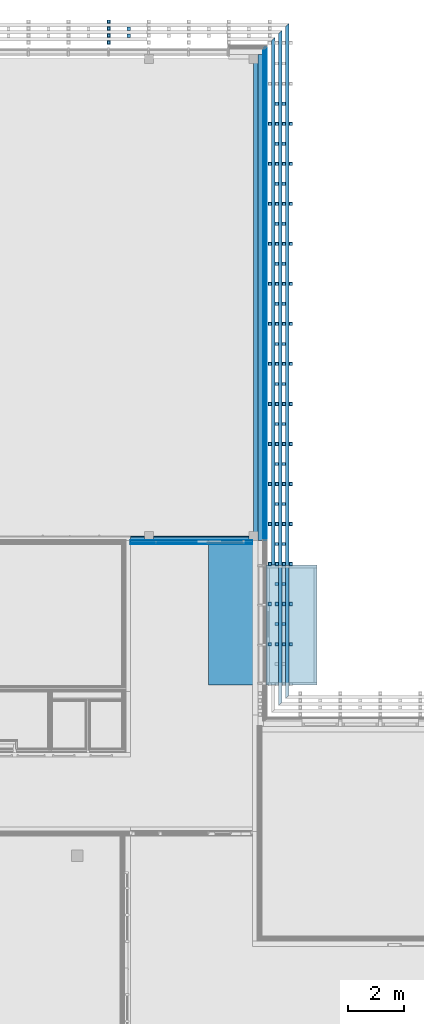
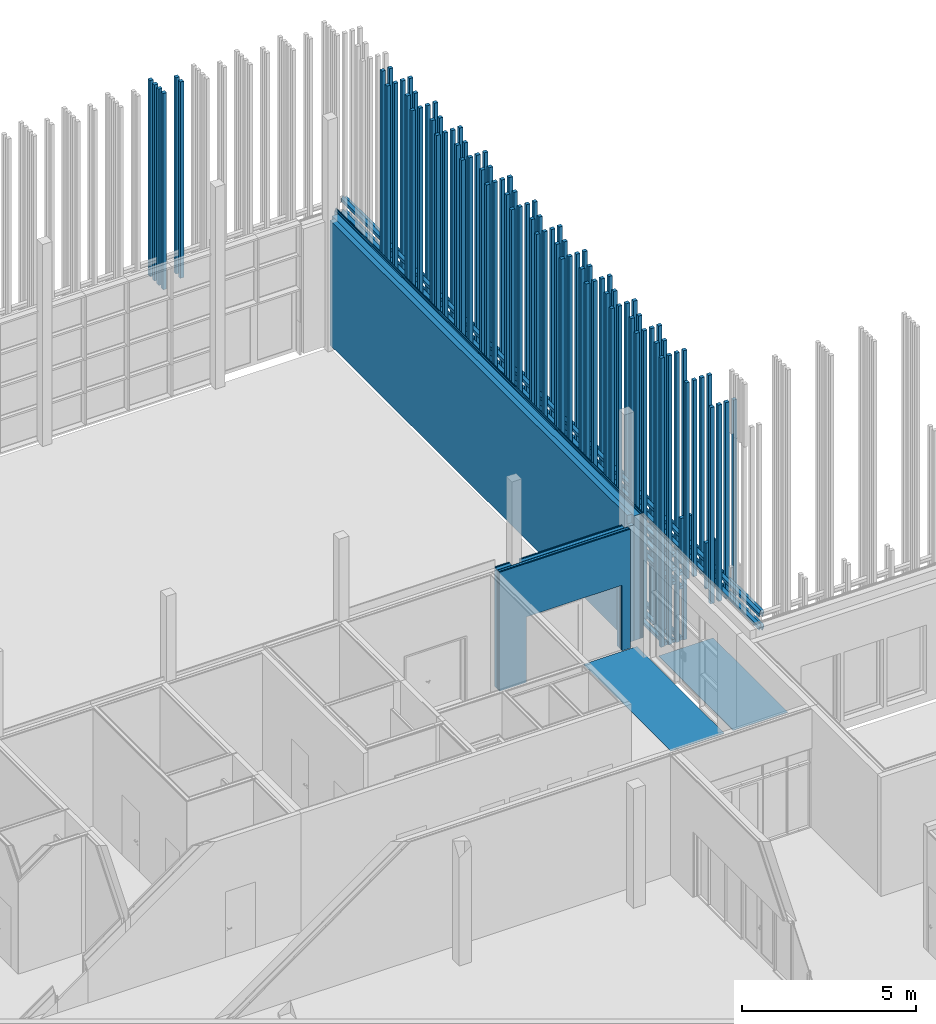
# One storey, part 233 of 260: 38 discrete accessories, 13 building element parts, 1 opening, 2 elements without a shape of their own.
"""IFC2X3 building model written with IfcOpenShell, lengths in millimetres."""

from ifc_helpers import new_model, entity, si_unit, converted_unit, derived_unit, money_unit, direction, frame, origin_with_axes, place, context, subcontext, project, spatial, faceted_brep, material, material_list, type_object, element, aggregate, save


model = new_model("IFC2X3")

# Units and contexts
model_context = context("Model", 3, precision=0.01, world=origin_with_axes(), true_north=direction((0.0, 1.0)))
body_context = subcontext(model_context, "Body", "Model", "MODEL_VIEW")
ifc_project = project(units=[si_unit("LENGTHUNIT", "METRE", prefix="MILLI"), si_unit("AREAUNIT", "SQUARE_METRE"), si_unit("VOLUMEUNIT", "CUBIC_METRE"), converted_unit("PLANEANGLEUNIT", "DEGREE", entity("IfcPlaneAngleMeasure", 0.0174532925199), si_unit("PLANEANGLEUNIT", "RADIAN"), dimensions=[0, 0, 0, 0, 0, 0, 0]), money_unit("EUR"), converted_unit("TIMEUNIT", "Year", entity("IfcTimeMeasure", 31556926.0), si_unit("TIMEUNIT", "SECOND"), dimensions=[0, 0, 1, 0, 0, 0, 0]), si_unit("MASSUNIT", "GRAM", prefix="KILO"), si_unit("THERMODYNAMICTEMPERATUREUNIT", "DEGREE_CELSIUS"), si_unit("LUMINOUSINTENSITYUNIT", "LUMEN"), si_unit("ENERGYUNIT", "JOULE", prefix="MEGA"), derived_unit("THERMALCONDUCTANCEUNIT", [(si_unit("POWERUNIT", "WATT"), 1), (si_unit("LENGTHUNIT", "METRE"), -1), (si_unit("THERMODYNAMICTEMPERATUREUNIT", "KELVIN"), -1)]), derived_unit("SPECIFICHEATCAPACITYUNIT", [(si_unit("ENERGYUNIT", "JOULE"), 1), (si_unit("MASSUNIT", "GRAM", prefix="KILO"), -1), (si_unit("THERMODYNAMICTEMPERATUREUNIT", "KELVIN"), -1)]), derived_unit("MASSDENSITYUNIT", [(si_unit("MASSUNIT", "GRAM", prefix="KILO"), 1), (si_unit("VOLUMEUNIT", "CUBIC_METRE"), -1)])], contexts=[model_context])

# Site, building, storey
site_placement = place(None, origin_with_axes())
site = spatial("IfcSite", under=ifc_project, at=site_placement, Name="Kolde pst 67a", CompositionType="ELEMENT")
building_placement = place(site_placement, origin_with_axes())
building = spatial("IfcBuilding", under=site, at=building_placement, Name="Riigigümnaasium", CompositionType="ELEMENT")
storey_placement = place(building_placement, origin_with_axes())
storey = spatial("IfcBuildingStorey", under=building, at=storey_placement, Name="1. korrus", CompositionType="ELEMENT", Elevation=0.0)

# Discrete accessories
ifc_material_1 = material(Name="_VÄLISVIIMISTLUS - sõrmjätkatud puitprussid 120x115mm, liitekohad vähemärgatavad, Platowood sõrmjätkatud kuusk või samaväärne; eeltöödeldud tuletõkkevõõbaga, tuletundlikkus B-s1, d0, Woodsafe Exterior WFX™ või samaväärne; kinnitused vastavalt EK osale")
ifc_material_list_1 = material_list([ifc_material_1, ifc_material_1, ifc_material_1, ifc_material_1])
discrete_accessory_type_1 = type_object("IfcDiscreteAccessoryType", Name="120 4-ne vertikaalne 870 x 115")
for number, where, z_axis, x_axis in (
    (1, (36790.0025447, 81957.5215754, 280.0), (0.0, 0.0, 1.0), (-0.999999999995, -3.13999128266e-06, 0.0)),
    (2, (36790.0023276, 80527.5215766, 280.0), (0.0, 0.0, 1.0), (-0.999999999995, -3.13999128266e-06, 0.0)),
    (3, (36790.0021106, 79097.5215769, 280.0), (0.0, 0.0, 1.0), (-0.999999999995, -3.13999128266e-06, 0.0)),
    (4, (36790.0018935, 77667.521578, 280.0), (0.0, 0.0, 1.0), (-0.999999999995, -3.13999128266e-06, 0.0)),
    (5, (36790.0016765, 76237.5215784, 280.0), (0.0, 0.0, 1.0), (-0.999999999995, -3.13999128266e-06, 0.0)),
    (6, (36790.0010644, 74807.5215795, 280.0), (0.0, 0.0, 1.0), (-0.999999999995, -3.13999128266e-06, 0.0)),
    (7, (36790.0012424, 73377.5215799, 280.0), (0.0, 0.0, 1.0), (-0.999999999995, -3.13999128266e-06, 0.0)),
    (8, (36790.0010253, 71947.521581, 280.0), (0.0, 0.0, 1.0), (-0.999999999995, -3.13999128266e-06, 0.0)),
    (9, (36790.0008083, 70517.5215814, 280.0), (0.0, 0.0, 1.0), (-0.999999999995, -3.13999128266e-06, 0.0)),
    (10, (36790.0005912, 69087.5215825, 280.0), (0.0, 0.0, 1.0), (-0.999999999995, -3.13999128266e-06, 0.0)),
    (11, (36790.0003742, 67657.5215829, 280.0), (0.0, 0.0, 1.0), (-0.999999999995, -3.13999128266e-06, 0.0)),
    (12, (36790.0001571, 66227.521584, 280.0), (0.0, 0.0, 1.0), (-0.999999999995, -3.13999128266e-06, 0.0)),
):
    element("IfcDiscreteAccessory", number, at=place(storey_placement, frame(where, z_axis=z_axis, x_axis=x_axis)), inside=storey, type_object=discrete_accessory_type_1, material=ifc_material_list_1, Name="Päikesevarjestus", context=body_context, shape_type="Brep", body=[
        faceted_brep([(-133.0, -70.0, 0.0), (-13.0, -70.0, 0.0), (-13.0, -70.0, 10140.0), (-133.0, -70.0, 10140.0), (-133.0, 45.0, 0.0), (-13.0, 45.0, 0.0), (-13.0, 45.0, 10140.0), (-133.0, 45.0, 10140.0)], [[[0, 1, 2, 3]], [[0, 4, 5, 1]], [[1, 5, 6, 2]], [[3, 2, 6, 7]], [[4, 0, 3, 7]], [[5, 4, 7, 6]]]),
        faceted_brep([(-383.0, -70.0, 0.0), (-263.0, -70.0, 0.0), (-263.0, -70.0, 10140.0), (-383.0, -70.0, 10140.0), (-383.0, 45.0, 0.0), (-263.0, 45.0, 0.0), (-263.0, 45.0, 10140.0), (-383.0, 45.0, 10140.0)], [[[0, 1, 2, 3]], [[0, 4, 5, 1]], [[1, 5, 6, 2]], [[3, 2, 6, 7]], [[4, 0, 3, 7]], [[5, 4, 7, 6]]]),
        faceted_brep([(-633.0, -70.0, 0.0), (-513.0, -70.0, 0.0), (-513.0, -70.0, 10140.0), (-633.0, -70.0, 10140.0), (-633.0, 45.0, 0.0), (-513.0, 45.0, 0.0), (-513.0, 45.0, 10140.0), (-633.0, 45.0, 10140.0)], [[[0, 1, 2, 3]], [[0, 4, 5, 1]], [[1, 5, 6, 2]], [[3, 2, 6, 7]], [[4, 0, 3, 7]], [[5, 4, 7, 6]]]),
        faceted_brep([(-883.0, -70.0, 0.0), (-763.0, -70.0, 0.0), (-763.0, -70.0, 10140.0), (-883.0, -70.0, 10140.0), (-883.0, 45.0, 0.0), (-763.0, 45.0, 0.0), (-763.0, 45.0, 10140.0), (-883.0, 45.0, 10140.0)], [[[0, 1, 2, 3]], [[0, 4, 5, 1]], [[1, 5, 6, 2]], [[3, 2, 6, 7]], [[4, 0, 3, 7]], [[5, 4, 7, 6]]]),
    ])
for number, where, z_axis, x_axis in (
    (13, (36789.9994576, 64797.5215883, 3540.00014213), (0.0, 0.0, 1.0), (-0.999999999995, -3.13999128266e-06, 0.0)),
    (14, (36789.999328, 63367.5215851, 3540.00014213), (0.0, 0.0, 1.0), (-0.999999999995, -3.13999128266e-06, 0.0)),
    (15, (31122.4999347, 84790.0013546, 3540.00014213), (0.0, 0.0, 1.0), (-2.93429595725e-05, -0.999999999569, 0.0)),
):
    element("IfcDiscreteAccessory", number, at=place(storey_placement, frame(where, z_axis=z_axis, x_axis=x_axis)), inside=storey, type_object=discrete_accessory_type_1, material=ifc_material_list_1, Name="Päikesevarjestus", context=body_context, shape_type="Brep", body=[
        faceted_brep([(-133.0, -70.0, 0.0), (-13.0, -70.0, 0.0), (-13.0, -70.0, 6879.99985787), (-133.0, -70.0, 6879.99985787), (-133.0, 45.0, 0.0), (-13.0, 45.0, 0.0), (-13.0, 45.0, 6879.99985787), (-133.0, 45.0, 6879.99985787)], [[[0, 1, 2, 3]], [[0, 4, 5, 1]], [[1, 5, 6, 2]], [[3, 2, 6, 7]], [[4, 0, 3, 7]], [[5, 4, 7, 6]]]),
        faceted_brep([(-383.0, -70.0, 0.0), (-263.0, -70.0, 0.0), (-263.0, -70.0, 6879.99985787), (-383.0, -70.0, 6879.99985787), (-383.0, 45.0, 0.0), (-263.0, 45.0, 0.0), (-263.0, 45.0, 6879.99985787), (-383.0, 45.0, 6879.99985787)], [[[0, 1, 2, 3]], [[0, 4, 5, 1]], [[1, 5, 6, 2]], [[3, 2, 6, 7]], [[4, 0, 3, 7]], [[5, 4, 7, 6]]]),
        faceted_brep([(-633.0, -70.0, 0.0), (-513.0, -70.0, 0.0), (-513.0, -70.0, 6879.99985787), (-633.0, -70.0, 6879.99985787), (-633.0, 45.0, 0.0), (-513.0, 45.0, 0.0), (-513.0, 45.0, 6879.99985787), (-633.0, 45.0, 6879.99985787)], [[[0, 1, 2, 3]], [[0, 4, 5, 1]], [[1, 5, 6, 2]], [[3, 2, 6, 7]], [[4, 0, 3, 7]], [[5, 4, 7, 6]]]),
        faceted_brep([(-883.0, -70.0, 0.0), (-763.0, -70.0, 0.0), (-763.0, -70.0, 6879.99985787), (-883.0, -70.0, 6879.99985787), (-883.0, 45.0, 0.0), (-763.0, 45.0, 0.0), (-763.0, 45.0, 6879.99985787), (-883.0, 45.0, 6879.99985787)], [[[0, 1, 2, 3]], [[0, 4, 5, 1]], [[1, 5, 6, 2]], [[3, 2, 6, 7]], [[4, 0, 3, 7]], [[5, 4, 7, 6]]]),
    ])
ifc_material_list_2 = material_list([ifc_material_1, ifc_material_1, ifc_material_1])
discrete_accessory_type_2 = type_object("IfcDiscreteAccessoryType", Name="120 1+paiksekaitse 3 tk  620 x 115")
discrete_accessory_1_placement = place(storey_placement, frame((36803.0003063, 66213.0216248, 352.5), z_axis=(0.0, 0.0, 1.0), x_axis=(0.999999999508, 3.1362198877e-05, 0.0)))
element("IfcDiscreteAccessory", 16, at=discrete_accessory_1_placement, inside=storey, type_object=discrete_accessory_type_2, material=ifc_material_list_2, Name="Päikesevarjestus", context=body_context, shape_type="Brep", body=[
    faceted_brep([(625.0, 19214.9587452, 45.0), (625.0, 0.0, 45.0), (745.0, 0.0, 45.0), (745.0, 19334.9549818, 45.0), (625.0, 19214.9587452, -70.0), (625.0, 0.0, -70.0), (745.0, 0.0, -70.0), (745.0, 19334.9549818, -70.0)], [[[0, 1, 2, 3]], [[4, 5, 1, 0]], [[5, 6, 2, 1]], [[3, 2, 6, 7]], [[4, 0, 3, 7]], [[7, 6, 5, 4]]]),
    faceted_brep([(375.0, 18964.9665857, 45.0), (375.0, 0.0, 45.0), (495.0, 0.0, 45.0), (495.0, 19084.9628222, 45.0), (375.0, 18964.9665857, -70.0), (375.0, 0.0, -70.0), (495.0, 0.0, -70.0), (495.0, 19084.9628222, -70.0)], [[[0, 1, 2, 3]], [[4, 5, 1, 0]], [[5, 6, 2, 1]], [[3, 2, 6, 7]], [[4, 0, 3, 7]], [[7, 6, 5, 4]]]),
    faceted_brep([(125.0, 18714.9744261, 45.0), (125.0, 0.0, 45.0), (245.0, 0.0, 45.0), (245.0, 18834.9706627, 45.0), (125.0, 18714.9744261, -70.0), (125.0, 0.0, -70.0), (245.0, 0.0, -70.0), (245.0, 18834.9706627, -70.0)], [[[0, 1, 2, 3]], [[4, 5, 1, 0]], [[5, 6, 2, 1]], [[3, 2, 6, 7]], [[4, 0, 3, 7]], [[7, 6, 5, 4]]]),
])
ifc_material_list_3 = material_list([ifc_material_1, ifc_material_1])
discrete_accessory_type_3 = type_object("IfcDiscreteAccessoryType", Name="1+paiksekaitse 4 tk nihkes 2 370 x 355")
for number, where, z_axis, x_axis in (
    (17, (36802.8900107, 66180.0021982, 2580.00014213), (0.0, 0.0, 1.0), (0.999999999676, 2.54661924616e-05, 0.0)),
    (18, (36802.8900107, 66180.0021982, 3060.00014213), (0.0, 0.0, 1.0), (0.999999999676, 2.54661924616e-05, 0.0)),
):
    element("IfcDiscreteAccessory", number, at=place(storey_placement, frame(where, z_axis=z_axis, x_axis=x_axis)), inside=storey, type_object=discrete_accessory_type_3, material=ifc_material_list_3, Name="Päikesevarjestus", context=body_context, shape_type="Brep", body=[
        faceted_brep([(375.0, 18997.9881429, 347.001360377), (375.0, 0.0, 347.001360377), (495.0, 0.0, 357.5), (495.0, 19117.9850642, 357.5), (375.0, 18997.9881429, 242.5), (375.0, 0.0, 242.5), (495.0, 0.0, 242.5), (495.0, 19117.9850642, 242.5)], [[[0, 1, 2, 3]], [[4, 5, 1, 0]], [[5, 6, 2, 1]], [[3, 2, 6, 7]], [[4, 0, 3, 7]], [[7, 6, 5, 4]]]),
        faceted_brep([(625.0, 19247.9817291, 107.001360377), (625.0, 0.0, 107.001360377), (745.0, 0.0, 117.5), (745.0, 19367.9786505, 117.5), (625.0, 19247.9817291, 2.5), (625.0, 0.0, 2.5), (745.0, 0.0, 2.5), (745.0, 19367.9786505, 2.5)], [[[0, 1, 2, 3]], [[4, 5, 1, 0]], [[5, 6, 2, 1]], [[3, 2, 6, 7]], [[4, 0, 3, 7]], [[7, 6, 5, 4]]]),
    ])
discrete_accessory_2_placement = place(storey_placement, frame((36803.0268916, 60804.999663, 3540.00014213), z_axis=(0.0, 0.0, 1.0), x_axis=(0.999999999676, 2.54661924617e-05, 0.0)))
element("IfcDiscreteAccessory", 19, at=discrete_accessory_2_placement, inside=storey, type_object=discrete_accessory_type_3, material=ifc_material_list_3, Name="Päikesevarjestus", context=body_context, shape_type="Brep", body=[
    faceted_brep([(375.0, 24372.9906798, 347.001360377), (375.0, 374.990462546, 347.001360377), (495.0, 494.98741056, 357.5), (495.0, 24492.9876012, 357.5), (375.0, 24372.9906798, 242.5), (375.0, 374.990462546, 242.5), (495.0, 494.98741056, 242.5), (495.0, 24492.9876012, 242.5)], [[[0, 1, 2, 3]], [[4, 5, 1, 0]], [[5, 6, 2, 1]], [[3, 2, 6, 7]], [[4, 0, 3, 7]], [[7, 6, 5, 4]]]),
    faceted_brep([(625.0, 24622.984266, 107.001360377), (625.0, 624.984104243, 107.001360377), (745.0, 744.981052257, 117.5), (745.0, 24742.9811874, 117.5), (625.0, 24622.984266, 2.5), (625.0, 624.984104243, 2.5), (745.0, 744.981052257, 2.5), (745.0, 24742.9811874, 2.5)], [[[0, 1, 2, 3]], [[4, 5, 1, 0]], [[5, 6, 2, 1]], [[3, 2, 6, 7]], [[4, 0, 3, 7]], [[7, 6, 5, 4]]]),
])
discrete_accessory_3_placement = place(storey_placement, frame((36803.0268924, 60804.999663, 4020.00014213), z_axis=(0.0, 0.0, 1.0), x_axis=(0.999999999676, 2.54669776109e-05, 0.0)))
element("IfcDiscreteAccessory", 20, at=discrete_accessory_3_placement, inside=storey, type_object=discrete_accessory_type_3, material=ifc_material_list_3, Name="Päikesevarjestus", context=body_context, shape_type="Brep", body=[
    faceted_brep([(375.0, 24372.9906795, 347.001360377), (375.0, 374.990462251, 347.001360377), (495.0, 494.987410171, 357.5), (495.0, 24492.9876008, 357.5), (375.0, 24372.9906795, 242.5), (375.0, 374.990462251, 242.5), (495.0, 494.987410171, 242.5), (495.0, 24492.9876008, 242.5)], [[[0, 1, 2, 3]], [[4, 5, 1, 0]], [[5, 6, 2, 1]], [[3, 2, 6, 7]], [[4, 0, 3, 7]], [[7, 6, 5, 4]]]),
    faceted_brep([(625.0, 24622.9842655, 107.001360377), (625.0, 624.984103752, 107.001360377), (745.0, 744.981051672, 117.5), (745.0, 24742.9811868, 117.5), (625.0, 24622.9842655, 2.5), (625.0, 624.984103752, 2.5), (745.0, 744.981051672, 2.5), (745.0, 24742.9811868, 2.5)], [[[0, 1, 2, 3]], [[4, 5, 1, 0]], [[5, 6, 2, 1]], [[3, 2, 6, 7]], [[4, 0, 3, 7]], [[7, 6, 5, 4]]]),
])
discrete_accessory_4_placement = place(storey_placement, frame((36802.8900107, 66180.002868, 2100.00014213), z_axis=(0.0, 0.0, 1.0), x_axis=(0.999999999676, 2.54661924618e-05, 0.0)))
element("IfcDiscreteAccessory", 21, at=discrete_accessory_4_placement, inside=storey, type_object=discrete_accessory_type_3, material=ifc_material_list_3, Name="Päikesevarjestus", context=body_context, shape_type="Brep", body=[
    faceted_brep([(375.0, 18997.9874731, 347.001360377), (375.0, 0.0, 347.001360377), (495.0, 0.0, 357.5), (495.0, 19117.9843945, 357.5), (375.0, 18997.9874731, 242.5), (375.0, 0.0, 242.5), (495.0, 0.0, 242.5), (495.0, 19117.9843945, 242.5)], [[[0, 1, 2, 3]], [[4, 5, 1, 0]], [[5, 6, 2, 1]], [[3, 2, 6, 7]], [[4, 0, 3, 7]], [[7, 6, 5, 4]]]),
    faceted_brep([(625.0, 19247.9810593, 107.001360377), (625.0, 0.0, 107.001360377), (745.0, 0.0, 117.5), (745.0, 19367.9779807, 117.5), (625.0, 19247.9810593, 2.5), (625.0, 0.0, 2.5), (745.0, 0.0, 2.5), (745.0, 19367.9779807, 2.5)], [[[0, 1, 2, 3]], [[4, 5, 1, 0]], [[5, 6, 2, 1]], [[3, 2, 6, 7]], [[4, 0, 3, 7]], [[7, 6, 5, 4]]]),
])
discrete_accessory_type_4 = type_object("IfcDiscreteAccessoryType", Name="1+paiksekaitse 3 370 x 115")
for number, where, z_axis, x_axis in (
    (22, (37770.0025341, 67015.0235214, 280.0), (0.0, 0.0, 1.0), (-1.0, 0.0, 0.0)),
    (23, (37770.0025341, 68445.0235214, 280.0), (0.0, 0.0, 1.0), (-1.0, 0.0, 0.0)),
    (24, (37770.0025341, 69875.0235214, 280.0), (0.0, 0.0, 1.0), (-1.0, 0.0, 0.0)),
    (25, (37770.0025341, 71305.0235214, 280.0), (0.0, 0.0, 1.0), (-1.0, 0.0, 0.0)),
    (26, (37770.0025341, 72735.0235214, 280.0), (0.0, 0.0, 1.0), (-1.0, 0.0, 0.0)),
    (27, (37770.0025341, 74165.0235214, 280.0), (0.0, 0.0, 1.0), (-1.0, 0.0, 0.0)),
    (28, (37770.0025341, 75595.0235214, 280.0), (0.0, 0.0, 1.0), (-1.0, 0.0, 0.0)),
    (29, (37770.0025341, 77025.0235214, 280.0), (0.0, 0.0, 1.0), (-1.0, 0.0, 0.0)),
    (30, (37770.0025341, 78455.0235214, 280.0), (0.0, 0.0, 1.0), (-1.0, 0.0, 0.0)),
    (31, (37770.0025341, 79885.0235214, 280.0), (0.0, 0.0, 1.0), (-1.0, 0.0, 0.0)),
    (32, (37770.0025341, 81315.0235214, 280.0), (0.0, 0.0, 1.0), (-1.0, 0.0, 0.0)),
    (33, (37770.0025341, 82745.0235214, 280.0), (0.0, 0.0, 1.0), (-1.0, 0.0, 0.0)),
):
    element("IfcDiscreteAccessory", number, at=place(storey_placement, frame(where, z_axis=z_axis, x_axis=x_axis)), inside=storey, type_object=discrete_accessory_type_4, material=ifc_material_list_3, Name="Päikesevarjestus", context=body_context, shape_type="Brep", body=[
        faceted_brep([(467.0, 117.5, 0.0), (347.0, 117.5, 0.0), (347.0, 117.5, 10140.0), (467.0, 117.5, 10140.0), (467.0, 2.5, 0.0), (347.0, 2.5, 0.0), (347.0, 2.5, 10140.0), (467.0, 2.5, 10140.0)], [[[0, 1, 2, 3]], [[0, 4, 5, 1]], [[1, 5, 6, 2]], [[3, 2, 6, 7]], [[4, 0, 3, 7]], [[5, 4, 7, 6]]]),
        faceted_brep([(717.0, 117.5, 0.0), (597.0, 117.5, 0.0), (597.0, 117.5, 10140.0), (717.0, 117.5, 10140.0), (717.0, 2.5, 0.0), (597.0, 2.5, 0.0), (597.0, 2.5, 10140.0), (717.0, 2.5, 10140.0)], [[[0, 1, 2, 3]], [[0, 4, 5, 1]], [[1, 5, 6, 2]], [[3, 2, 6, 7]], [[4, 0, 3, 7]], [[5, 4, 7, 6]]]),
    ])
discrete_accessory_5_placement = place(storey_placement, frame((31765.0181274, 85770.0034817, 3540.00014213), z_axis=(0.0, 0.0, 1.0), x_axis=(0.0, -1.0, 0.0)))
element("IfcDiscreteAccessory", 34, at=discrete_accessory_5_placement, inside=storey, type_object=discrete_accessory_type_4, material=ifc_material_list_3, Name="Päikesevarjestus", context=body_context, shape_type="Brep", body=[
    faceted_brep([(467.0, 117.5, 0.0), (347.0, 117.5, 0.0), (347.0, 117.5, 6879.99985787), (467.0, 117.5, 6879.99985787), (467.0, 2.5, 0.0), (347.0, 2.5, 0.0), (347.0, 2.5, 6879.99985787), (467.0, 2.5, 6879.99985787)], [[[0, 1, 2, 3]], [[0, 4, 5, 1]], [[1, 5, 6, 2]], [[3, 2, 6, 7]], [[4, 0, 3, 7]], [[5, 4, 7, 6]]]),
    faceted_brep([(717.0, 117.5, 0.0), (597.0, 117.5, 0.0), (597.0, 117.5, 6879.99985787), (717.0, 117.5, 6879.99985787), (717.0, 2.5, 0.0), (597.0, 2.5, 0.0), (597.0, 2.5, 6879.99985787), (717.0, 2.5, 6879.99985787)], [[[0, 1, 2, 3]], [[0, 4, 5, 1]], [[1, 5, 6, 2]], [[3, 2, 6, 7]], [[4, 0, 3, 7]], [[5, 4, 7, 6]]]),
])
for number, where, z_axis, x_axis in (
    (35, (37769.99923, 65585.0246394, 3540.00014213), (0.0, 0.0, 1.0), (-1.0, 0.0, 0.0)),
    (36, (37769.99923, 64155.0246394, 3540.00014213), (0.0, 0.0, 1.0), (-1.0, 0.0, 0.0)),
):
    element("IfcDiscreteAccessory", number, at=place(storey_placement, frame(where, z_axis=z_axis, x_axis=x_axis)), inside=storey, type_object=discrete_accessory_type_4, material=ifc_material_list_3, Name="Päikesevarjestus", context=body_context, shape_type="Brep", body=[
        faceted_brep([(467.0, 117.5, 0.0), (347.0, 117.5, 0.0), (347.0, 117.5, 1610.0), (467.0, 117.5, 1610.0), (467.0, 2.5, 0.0), (347.0, 2.5, 0.0), (347.0, 2.5, 1610.0), (467.0, 2.5, 1610.0)], [[[0, 1, 2, 3]], [[0, 4, 5, 1]], [[1, 5, 6, 2]], [[3, 2, 6, 7]], [[4, 0, 3, 7]], [[5, 4, 7, 6]]]),
        faceted_brep([(717.0, 117.5, 0.0), (597.0, 117.5, 0.0), (597.0, 117.5, 1610.0), (717.0, 117.5, 1610.0), (717.0, 2.5, 0.0), (597.0, 2.5, 0.0), (597.0, 2.5, 1610.0), (717.0, 2.5, 1610.0)], [[[0, 1, 2, 3]], [[0, 4, 5, 1]], [[1, 5, 6, 2]], [[3, 2, 6, 7]], [[4, 0, 3, 7]], [[5, 4, 7, 6]]]),
    ])
ifc_material_2 = material(Name="_METALL - teras")
discrete_accessory_type_5 = type_object("IfcDiscreteAccessoryType", Name="_METALL - teras 22")
discrete_accessory_6_placement = place(storey_placement, frame((36439.99923, 66924.9917292, 0.0), z_axis=(0.0, 0.0, 1.0), x_axis=(1.0, 0.0, 0.0)))
element("IfcDiscreteAccessory", 37, at=discrete_accessory_6_placement, inside=storey, type_object=discrete_accessory_type_5, material=ifc_material_2, Name="süvistatud poritõkkesüsteem 22 mm vastavalt SA osale", context=body_context, shape_type="Brep", body=[
    faceted_brep([(0.0, 0.0, 0.0), (0.0, 0.0, -22.0), (-1770.93988187, 0.0, -22.0), (-1770.93988187, 0.0, 0.0), (0.0, -5007.1084802, 0.0), (0.0, -5007.1084802, -22.0), (-1770.93988187, -5007.1084802, -22.0), (-1770.93988187, -5007.1084802, 0.0)], [[[0, 1, 2, 3]], [[4, 5, 1, 0]], [[2, 1, 5, 6]], [[3, 2, 6, 7]], [[4, 0, 3, 7]], [[7, 6, 5, 4]]]),
])
discrete_accessory_7_placement = place(storey_placement, frame((38551.9992299, 66207.4801952, 0.0), z_axis=(0.0, 0.0, 1.0), x_axis=(1.0, 0.0, 0.0)))
element("IfcDiscreteAccessory", 38, at=discrete_accessory_7_placement, inside=storey, type_object=discrete_accessory_type_5, material=ifc_material_2, Name="30mm süvistatud roostevaba porirest betoonalusel vastavalt EK osale, kalle kaevu poole ≥1:80; resti silm 33x11mm, hambuline; porirest eemaldatav puhastuseks; vt joonist AR-7-207; sadevee kogumiseks resti all settepõhjaga restkaev, maapinnast -200mm kõrgusel, vesi koguneb sadeveetorustikku, vt VK osa", context=body_context, shape_type="Brep", body=[
    faceted_brep([(0.0, 0.0, 0.0), (0.0, 0.0, -22.0), (-1812.0497378, 0.0, -22.0), (-1812.0497378, 0.0, 0.0), (0.0, -4289.5969463, 0.0), (0.0, -4289.5969463, -22.0), (-1812.0497378, -4289.5969463, -22.0), (-1812.0497378, -4289.5969463, 0.0)], [[[0, 1, 2, 3]], [[4, 5, 1, 0]], [[2, 1, 5, 6]], [[3, 2, 6, 7]], [[4, 0, 3, 7]], [[7, 6, 5, 4]]]),
])

# Wall, opening, building element parts
wall_type_1 = type_object("IfcWallType", Name="SS-CLT-16/1_vill75+krohv 52 dB 300", PredefinedType="NOTDEFINED")
wall_1_placement = place(storey_placement, frame((31900.002676, 67249.9924618, 0.0), z_axis=(0.0, 0.0, 1.0), x_axis=(1.0, -1.68819893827e-07, 0.0)))
wall_1 = element("IfcWall", 39, at=wall_1_placement, inside=storey, type_object=wall_type_1, Name="Sisesein")
opening_placement = place(wall_1_placement, frame((2476.24680405, 0.0, 0.0), z_axis=(0.0, 0.0, 1.0), x_axis=(1.0, 0.0, 0.0)))
element("IfcOpeningElement", 40, at=opening_placement, cuts=wall_1, Name="Ukseava", context=body_context, shape_type="Brep", body=[
    faceted_brep([(1583.74974996, 300.0, 0.0), (1583.74974996, 300.0, 2300.0), (1583.74974996, -600.0, 2300.0), (1583.74974996, -600.0, 0.0), (-1583.74974996, 300.0, 0.0), (-1583.74974996, 300.0, 2300.0), (-1583.74974996, -600.0, 2300.0), (-1583.74974996, -600.0, 0.0)], [[[0, 1, 2, 3]], [[0, 4, 5, 1]], [[1, 5, 6, 2]], [[3, 2, 6, 7]], [[4, 0, 3, 7]], [[5, 4, 7, 6]]]),
])
ifc_material_3 = material(Name="_KANDETARIND - CLT ristkihtliimpuit vastavalt EK osale, CLT paigaldusvuugid teibitakse ROTHOBLAAS teibiga")
building_element_part_1_placement = place(wall_1_placement, origin_with_axes())
building_element_part_1 = element("IfcBuildingElementPart", 41, at=building_element_part_1_placement, material=ifc_material_3, Name="_KANDETARIND - CLT ristkihtliimpuit vastavalt EK osale, CLT paigaldusvuugid teibitakse ROTHOBLAAS teibiga", context=body_context, shape_type="Brep", body=[
    faceted_brep([(4219.99643288, -40.0000531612, 4190.0), (4219.99642613, 0.0, 4190.0), (809.997324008, 0.0, 4190.0), (809.99733076, -40.0006196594, 4190.0), (4219.99642613, 0.0, 0.0), (4219.99643288, -40.0, 4170.0), (4219.99645314, -159.993861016, 4170.0), (4219.99645314, -159.993861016, 0.0), (4059.996554, 0.0, 0.0), (4059.996554, 0.0, 2300.0), (892.497054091, 0.0, 2300.0), (892.497054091, 0.0, 0.0), (809.997324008, 0.0, 0.0), (809.99733076, -40.0, 4170.0), (809.997351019, -160.0, 0.0), (809.997351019, -160.0, 4170.0), (892.497054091, -160.0, 0.0), (892.497054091, -160.0, 2300.0), (4059.996554, -160.0, 2300.0), (4059.996554, -160.0, 0.0)], [[[0, 1, 2, 3]], [[4, 1, 0, 5, 6, 7]], [[1, 4, 8, 9, 10, 11, 12, 2]], [[13, 3, 2, 12, 14, 15]], [[5, 0, 3, 13]], [[6, 5, 13, 15]], [[7, 6, 15, 14, 16, 17, 18, 19]], [[4, 7, 19, 8]], [[19, 18, 9, 8]], [[18, 17, 10, 9]], [[17, 16, 11, 10]], [[16, 14, 12, 11]]]),
    faceted_brep([(489.99733076, -40.0006728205, 4190.0), (489.997324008, 0.0, 4190.0), (0.0, 0.0, 4190.0), (0.0, -40.0007542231, 4190.0), (489.997324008, 0.0, 0.0), (489.99733076, -40.0, 4170.0), (489.997351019, -160.0, 4170.0), (489.997351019, -160.0, 0.0), (0.0, 0.0, 0.0), (0.0, -160.0, 0.0), (0.0, -160.0, 4170.0), (0.0, -40.0, 4170.0)], [[[0, 1, 2, 3]], [[4, 1, 0, 5, 6, 7]], [[1, 4, 8, 2]], [[2, 8, 9, 10, 11, 3]], [[5, 0, 3, 11]], [[6, 5, 11, 10]], [[7, 6, 10, 9]], [[4, 7, 9, 8]]]),
])
ifc_material_4 = material(Name="_ÕHKVAHE")
building_element_part_2_placement = place(wall_1_placement, origin_with_axes())
building_element_part_2 = element("IfcBuildingElementPart", 42, at=building_element_part_2_placement, material=ifc_material_4, Name="_ÕHKVAHE", context=body_context, shape_type="Brep", body=[
    faceted_brep([(892.497054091, -160.0, 0.0), (809.997351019, -160.0, 0.0), (809.997351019, -160.0, 4170.0), (4339.99658102, -160.0, 4170.0), (4339.99658102, -160.0, 0.0), (4059.996554, -160.0, 0.0), (4059.996554, -160.0, 2300.0), (892.497054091, -160.0, 2300.0), (489.997351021, -160.011545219, 0.0), (809.997351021, -160.011491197, 0.0), (892.497054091, -175.0, 0.0), (0.0, -175.0, 0.0), (0.0, -160.0, 0.0), (489.997351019, -160.0, 0.0), (809.997351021, -160.011491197, 4170.0), (489.997351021, -160.011545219, 4170.0), (489.997351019, -160.0, 4170.0), (0.0, -160.0, 4170.0), (0.0, -175.0, 4170.0), (4339.99658102, -175.0, 4170.0), (4339.99658102, -175.0, 0.0), (4059.996554, -175.0, 0.0), (4059.996554, -175.0, 2300.0), (892.497054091, -175.0, 2300.0)], [[[0, 1, 2, 3, 4, 5, 6, 7]], [[8, 9, 1, 0, 10, 11, 12, 13]], [[9, 14, 2, 1]], [[14, 15, 16, 17, 18, 19, 3, 2]], [[4, 3, 19, 20]], [[4, 20, 21, 5]], [[21, 22, 6, 5]], [[22, 23, 7, 6]], [[23, 10, 0, 7]], [[8, 15, 14, 9]], [[10, 23, 22, 21, 20, 19, 18, 11]], [[11, 18, 17, 12]], [[17, 16, 13, 12]], [[8, 13, 16, 15]]]),
])
ifc_material_5 = material(Name="_KARKASS - metallkarkass CW 75/50/06 ja UW 75/40/06, samm 600, vahel mineraalvill, helineeldetegur αw = 1.0,  ISOVER ACOUSTIC 75mm või samaväärne")
building_element_part_3_placement = place(wall_1_placement, origin_with_axes())
building_element_part_3 = element("IfcBuildingElementPart", 43, at=building_element_part_3_placement, material=ifc_material_5, Name="_KARKASS - metallkarkass CW 75/50/06 ja UW 75/40/06, samm 600, vahel mineraalvill, helineeldetegur αw = 1.0,  ISOVER ACOUSTIC 75mm või samaväärne", context=body_context, shape_type="Brep", body=[
    faceted_brep([(892.497054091, -175.0, 2300.0), (892.497054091, -175.0, 0.0), (0.0, -175.0, 0.0), (0.0, -175.0, 4170.0), (4339.99658102, -175.0, 4170.0), (4339.99658102, -175.0, 0.0), (4059.996554, -175.0, 0.0), (4059.996554, -175.0, 2300.0), (892.497054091, -250.0, 2300.0), (892.497054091, -250.0, 0.0), (0.0, -250.0, 0.0), (0.0, -250.0, 4170.0), (4339.99658102, -250.0, 4170.0), (4339.99658102, -250.0, 0.0), (4059.996554, -250.0, 0.0), (4059.996554, -250.0, 2300.0)], [[[0, 1, 2, 3, 4, 5, 6, 7]], [[1, 0, 8, 9]], [[1, 9, 10, 2]], [[3, 2, 10, 11]], [[4, 3, 11, 12]], [[12, 13, 5, 4]], [[14, 6, 5, 13]], [[7, 6, 14, 15]], [[0, 7, 15, 8]], [[15, 14, 13, 12, 11, 10, 9, 8]]]),
])
ifc_material_6 = material(Name="_PLAATMATERJAL - OSB3 plaat")
building_element_part_4_placement = place(wall_1_placement, origin_with_axes())
building_element_part_4 = element("IfcBuildingElementPart", 44, at=building_element_part_4_placement, material=ifc_material_6, Name="_PLAATMATERJAL - OSB3 plaat", context=body_context, shape_type="Brep", body=[
    faceted_brep([(892.497054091, -250.0, 2300.0), (892.497054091, -250.0, 0.0), (0.0, -250.0, 0.0), (0.0, -250.0, 4170.0), (4339.99658102, -250.0, 4170.0), (4339.99658102, -250.0, 0.0), (4059.996554, -250.0, 0.0), (4059.996554, -250.0, 2300.0), (892.497054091, -260.0, 2300.0), (892.497054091, -260.0, 0.0), (0.0, -260.0, 0.0), (0.0, -260.0, 4170.0), (4339.99658102, -260.0, 4170.0), (4339.99658102, -260.0, 0.0), (4059.996554, -260.0, 0.0), (4059.996554, -260.0, 2300.0)], [[[0, 1, 2, 3, 4, 5, 6, 7]], [[1, 0, 8, 9]], [[1, 9, 10, 2]], [[3, 2, 10, 11]], [[4, 3, 11, 12]], [[12, 13, 5, 4]], [[14, 6, 5, 13]], [[7, 6, 14, 15]], [[0, 7, 15, 8]], [[15, 14, 13, 12, 11, 10, 9, 8]]]),
])
ifc_material_7 = material(Name="_PLAATMATERJAL - tuletõkkekipsplaat, Knauf Red GKF või samaväärne")
building_element_part_5_placement = place(wall_1_placement, origin_with_axes())
building_element_part_5 = element("IfcBuildingElementPart", 45, at=building_element_part_5_placement, material=ifc_material_7, Name="_PLAATMATERJAL - tuletõkkekipsplaat, Knauf Red GKF või samaväärne", context=body_context, shape_type="Brep", body=[
    faceted_brep([(892.497054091, -260.0, 2300.0), (892.497054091, -260.0, 0.0), (0.0, -260.0, 0.0), (0.0, -260.0, 4170.0), (4339.99658102, -260.0, 4170.0), (4339.99658102, -260.0, 0.0), (4059.996554, -260.0, 0.0), (4059.996554, -260.0, 2300.0), (892.497054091, -275.0, 2300.0), (892.497054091, -275.0, 0.0), (0.0, -275.0, 0.0), (0.0, -275.0, 4170.0), (4339.99658102, -275.0, 4170.0), (4339.99658102, -275.0, 0.0), (4059.996554, -275.0, 0.0), (4059.996554, -275.0, 2300.0)], [[[0, 1, 2, 3, 4, 5, 6, 7]], [[1, 0, 8, 9]], [[1, 9, 10, 2]], [[3, 2, 10, 11]], [[4, 3, 11, 12]], [[12, 13, 5, 4]], [[14, 6, 5, 13]], [[7, 6, 14, 15]], [[0, 7, 15, 8]], [[15, 14, 13, 12, 11, 10, 9, 8]]]),
])
building_element_part_6_placement = place(wall_1_placement, origin_with_axes())
building_element_part_6 = element("IfcBuildingElementPart", 46, at=building_element_part_6_placement, material=ifc_material_7, Name="_PLAATMATERJAL - tuletõkkekipsplaat, Knauf Red GKF või samaväärne", context=body_context, shape_type="Brep", body=[
    faceted_brep([(892.497054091, -275.0, 2300.0), (892.497054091, -275.0, 0.0), (0.0, -275.0, 0.0), (0.0, -275.0, 4170.0), (4339.99658102, -275.0, 4170.0), (4339.99658102, -275.0, 0.0), (4059.996554, -275.0, 0.0), (4059.996554, -275.0, 2300.0), (892.497054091, -290.0, 2300.0), (892.497054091, -290.0, 0.0), (0.0, -290.0, 0.0), (0.0, -290.0, 4170.0), (4339.99658102, -290.0, 4170.0), (4339.99658102, -290.0, 0.0), (4059.996554, -290.0, 0.0), (4059.996554, -290.0, 2300.0)], [[[0, 1, 2, 3, 4, 5, 6, 7]], [[1, 0, 8, 9]], [[1, 9, 10, 2]], [[3, 2, 10, 11]], [[4, 3, 11, 12]], [[12, 13, 5, 4]], [[14, 6, 5, 13]], [[7, 6, 14, 15]], [[0, 7, 15, 8]], [[15, 14, 13, 12, 11, 10, 9, 8]]]),
])
ifc_material_8 = material(Name="_VIIMISTLUSKIHT - viimistlus vastavalt SA osale")
building_element_part_7_placement = place(wall_1_placement, origin_with_axes())
building_element_part_7 = element("IfcBuildingElementPart", 47, at=building_element_part_7_placement, material=ifc_material_8, Name="_VIIMISTLUSKIHT - viimistlus vastavalt SA osale", context=body_context, shape_type="Brep", body=[
    faceted_brep([(892.497054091, -290.0, 2300.0), (892.497054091, -290.0, 0.0), (0.0, -290.0, 0.0), (0.0, -290.0, 4170.0), (4339.99658102, -290.0, 4170.0), (4339.99658102, -290.0, 0.0), (4059.996554, -290.0, 0.0), (4059.996554, -290.0, 2300.0), (892.497054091, -300.0, 2300.0), (892.497054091, -300.0, 0.0), (0.0, -300.0, 0.0), (0.0, -300.0, 4170.0), (4339.99658102, -300.0, 4170.0), (4339.99658102, -300.0, 0.0), (4059.996554, -300.0, 0.0), (4059.996554, -300.0, 2300.0)], [[[0, 1, 2, 3, 4, 5, 6, 7]], [[1, 0, 8, 9]], [[1, 9, 10, 2]], [[3, 2, 10, 11]], [[4, 3, 11, 12]], [[12, 13, 5, 4]], [[14, 6, 5, 13]], [[7, 6, 14, 15]], [[0, 7, 15, 8]], [[15, 14, 13, 12, 11, 10, 9, 8]]]),
])
aggregate(wall_1, [building_element_part_1, building_element_part_2, building_element_part_3, building_element_part_4, building_element_part_5, building_element_part_6, building_element_part_7])

# Wall, building element parts
wall_type_2 = type_object("IfcWallType", Name="VS-CLT-16/1_soojust 200+laudis 472", PredefinedType="NOTDEFINED")
wall_2_placement = place(storey_placement, frame((36439.99923, 67089.9978884, 100.0), z_axis=(0.0, 0.0, 1.0), x_axis=(0.0, 1.0, 0.0)))
wall_2 = element("IfcWall", 48, at=wall_2_placement, inside=storey, type_object=wall_type_2, Name="Välissein")
building_element_part_8_placement = place(wall_2_placement, origin_with_axes())
building_element_part_8 = element("IfcBuildingElementPart", 49, at=building_element_part_8_placement, material=ifc_material_3, Name="_KANDETARIND - CLT ristkihtliimpuit vastavalt EK osale, CLT paigaldusvuugid teibitakse ROTHOBLAAS teibiga", context=body_context, shape_type="Brep", body=[
    faceted_brep([(119.993834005, 160.0, 4370.0), (119.993834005, 160.0, 4070.0), (119.993806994, 0.0, 4070.0), (119.993806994, 0.0, 4370.0), (17190.0020724, 160.0, 4370.0), (17190.0020724, 160.0, 0.0), (0.0, 160.0, 0.0), (0.0, 160.0, 4070.0), (0.0, 0.0, 4070.0), (0.0, 0.0, 0.0), (17190.0020724, 0.0, 0.0), (17190.0020724, 0.0, 4370.0)], [[[0, 1, 2, 3]], [[1, 0, 4, 5, 6, 7]], [[8, 2, 1, 7]], [[2, 8, 9, 10, 11, 3]], [[0, 3, 11, 4]], [[4, 11, 10, 5]], [[10, 9, 6, 5]], [[8, 7, 6, 9]]]),
])
ifc_material_9 = material(Name="_SOOJUSTUS - mineraalvill, λD<0,032 W/(mK), kuumtsingitud lehtteras termoroovidega, S350GD+Zn275 vastavalt EN10346, ISOVER EXTREME 32 200mm või samaväärne")
building_element_part_9_placement = place(wall_2_placement, origin_with_axes())
building_element_part_9 = element("IfcBuildingElementPart", 50, at=building_element_part_9_placement, material=ifc_material_9, Name="_SOOJUSTUS - mineraalvill, λD<0,032 W/(mK), kuumtsingitud lehtteras termoroovidega, S350GD+Zn275 vastavalt EN10346, ISOVER EXTREME 32 200mm või samaväärne", context=body_context, shape_type="Brep", body=[
    faceted_brep([(0.0, -200.0, 0.0), (0.0, 0.0, 0.0), (17350.0020724, 0.0, 0.0), (17350.0020724, -200.0, 0.0), (0.0, -200.0, 4370.0), (0.0, 0.0, 4370.0), (17350.0020724, 0.0, 4370.0), (17350.0020724, -200.0, 4370.0)], [[[0, 1, 2, 3]], [[4, 5, 1, 0]], [[1, 5, 6, 2]], [[7, 3, 2, 6]], [[4, 0, 3, 7]], [[5, 4, 7, 6]]]),
])
ifc_material_10 = material(Name="_TUULETÕKE - tuuletõkkeplaat, soojuserijuhtivus λD<0,031 W/(mK), ISOVER RKL FACADE või samaväärne, liitekohad katta tihendusteibiga ISOVER FacadeTape või samaväärne")
building_element_part_10_placement = place(wall_2_placement, origin_with_axes())
building_element_part_10 = element("IfcBuildingElementPart", 51, at=building_element_part_10_placement, material=ifc_material_10, Name="_TUULETÕKE - tuuletõkkeplaat, soojuserijuhtivus λD<0,031 W/(mK), ISOVER RKL FACADE või samaväärne, liitekohad katta tihendusteibiga ISOVER FacadeTape või samaväärne", context=body_context, shape_type="Brep", body=[
    faceted_brep([(0.0, -230.0, 0.0), (0.0, -200.0, 0.0), (17550.0020724, -200.0, 0.0), (17550.0020724, -230.0, 0.0), (0.0, -230.0, 4370.0), (0.0, -200.0, 4370.0), (17550.0020724, -200.0, 4370.0), (17550.0020724, -230.0, 4370.0)], [[[0, 1, 2, 3]], [[4, 5, 1, 0]], [[1, 5, 6, 2]], [[7, 3, 2, 6]], [[4, 0, 3, 7]], [[5, 4, 7, 6]]]),
])
ifc_material_11 = material(Name="_KARKASS - puitroov 32x50mm vertikaalne, immutatud Driconi tulekaitsevahendiga või samaväärne, samm 600mm")
building_element_part_11_placement = place(wall_2_placement, origin_with_axes())
building_element_part_11 = element("IfcBuildingElementPart", 52, at=building_element_part_11_placement, material=ifc_material_11, Name="_KARKASS - puitroov 32x50mm vertikaalne, immutatud Driconi tulekaitsevahendiga või samaväärne, samm 600mm", context=body_context, shape_type="Brep", body=[
    faceted_brep([(0.0, -262.0, 0.0), (0.0, -230.0, 0.0), (17580.0020724, -230.0, 0.0), (17580.0020724, -262.0, 0.0), (0.0, -262.0, 4370.0), (0.0, -230.0, 4370.0), (17580.0020724, -230.0, 4370.0), (17580.0020724, -262.0, 4370.0)], [[[0, 1, 2, 3]], [[4, 5, 1, 0]], [[1, 5, 6, 2]], [[7, 3, 2, 6]], [[4, 0, 3, 7]], [[5, 4, 7, 6]]]),
])
ifc_material_12 = material(Name="_KARKASS - puitroov 32x50mm horisontaalne, immutatud Driconi tulekaitsevahendiga või samaväärne, samm 600mm")
building_element_part_12_placement = place(wall_2_placement, origin_with_axes())
building_element_part_12 = element("IfcBuildingElementPart", 53, at=building_element_part_12_placement, material=ifc_material_12, Name="_KARKASS - puitroov 32x50mm horisontaalne, immutatud Driconi tulekaitsevahendiga või samaväärne, samm 600mm", context=body_context, shape_type="Brep", body=[
    faceted_brep([(0.0, -294.0, 0.0), (0.0, -262.0, 0.0), (17612.0020724, -262.0, 0.0), (17612.0020724, -294.0, 0.0), (0.0, -294.0, 4370.0), (0.0, -262.0, 4370.0), (17612.0020724, -262.0, 4370.0), (17612.0020724, -294.0, 4370.0)], [[[0, 1, 2, 3]], [[4, 5, 1, 0]], [[1, 5, 6, 2]], [[7, 3, 2, 6]], [[4, 0, 3, 7]], [[5, 4, 7, 6]]]),
])
ifc_material_13 = material(Name="_VÄLISVIIMISTLUS - vertikaalne voodrilaud, Platowood P01 profiil 18x140mm, kuusk; eeltöödeldud tuletõkkega mõlemad küljed, B-s1, d0, Woodsafe Exterior WFX™ või samaväärne")
building_element_part_13_placement = place(wall_2_placement, origin_with_axes())
building_element_part_13 = element("IfcBuildingElementPart", 54, at=building_element_part_13_placement, material=ifc_material_13, Name="_VÄLISVIIMISTLUS - vertikaalne voodrilaud, Platowood P01 profiil 18x140mm, kuusk; eeltöödeldud tuletõkkega mõlemad küljed, B-s1, d0, Woodsafe Exterior WFX™ või samaväärne", context=body_context, shape_type="Brep", body=[
    faceted_brep([(0.0, -312.0, 0.0), (0.0, -294.0, 0.0), (17644.0020724, -294.0, 0.0), (17644.0020724, -312.0, 0.0), (0.0, -312.0, 4370.0), (0.0, -294.0, 4370.0), (17644.0020724, -294.0, 4370.0), (17644.0020724, -312.0, 4370.0)], [[[0, 1, 2, 3]], [[4, 5, 1, 0]], [[1, 5, 6, 2]], [[7, 3, 2, 6]], [[4, 0, 3, 7]], [[5, 4, 7, 6]]]),
])
aggregate(wall_2, [building_element_part_8, building_element_part_9, building_element_part_10, building_element_part_11, building_element_part_12, building_element_part_13])

save(model, "model.ifc")
